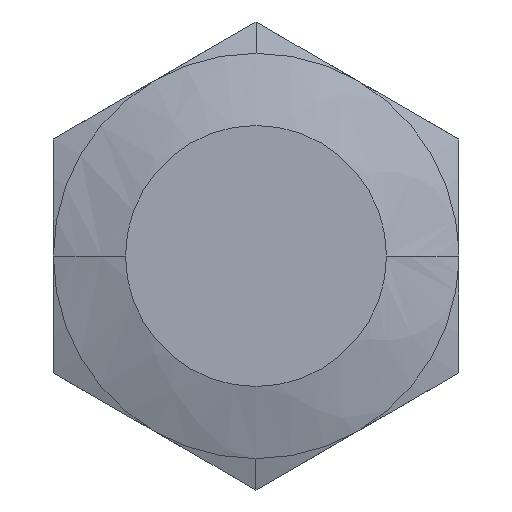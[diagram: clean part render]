
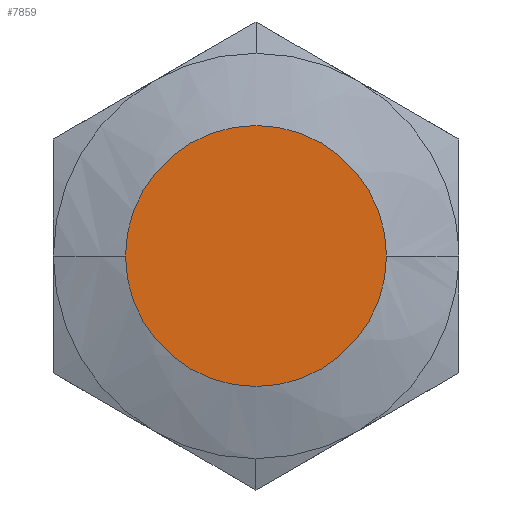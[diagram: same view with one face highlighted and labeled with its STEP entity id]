
A CAD part, left-side view. The second image highlights one B-rep face of the part: STEP entity #7859.
In plain terms, the highlighted planar face has unit normal (-1, 0, 0).
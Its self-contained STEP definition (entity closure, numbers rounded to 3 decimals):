
#1=CARTESIAN_POINT('',(-17.58,0.,0.));
#2=DIRECTION('',(1.,0.,0.));
#3=DIRECTION('',(0.,1.,0.));
#4=AXIS2_PLACEMENT_3D('',#1,#2,#3);
#16=CARTESIAN_POINT('',(-17.58,0.,0.));
#17=DIRECTION('',(-1.,0.,0.));
#18=DIRECTION('',(0.,1.,0.));
#19=AXIS2_PLACEMENT_3D('',#16,#17,#18);
#7336=CARTESIAN_POINT('',(-17.58,8.05,0.));
#7337=CARTESIAN_POINT('',(-17.58,-8.05,0.));
#7338=VERTEX_POINT('',#7336);
#7339=VERTEX_POINT('',#7337);
#7848=CARTESIAN_POINT('',(-17.58,0.,0.));
#7849=DIRECTION('',(-1.,0.,0.));
#7850=DIRECTION('',(0.,1.,0.));
#7851=AXIS2_PLACEMENT_3D('',#7848,#7849,#7850);
#7852=PLANE('',#7851);
#7854=ORIENTED_EDGE('',*,*,#7853,.F.);
#7856=ORIENTED_EDGE('',*,*,#7855,.T.);
#7857=EDGE_LOOP('',(#7854,#7856));
#7858=FACE_OUTER_BOUND('',#7857,.F.);
#7859=ADVANCED_FACE('',(#7858),#7852,.T.);
#5=CIRCLE('',#4,8.05);
#20=CIRCLE('',#19,8.05);
#7853=EDGE_CURVE('',#7338,#7339,#20,.T.);
#7855=EDGE_CURVE('',#7338,#7339,#5,.T.);
